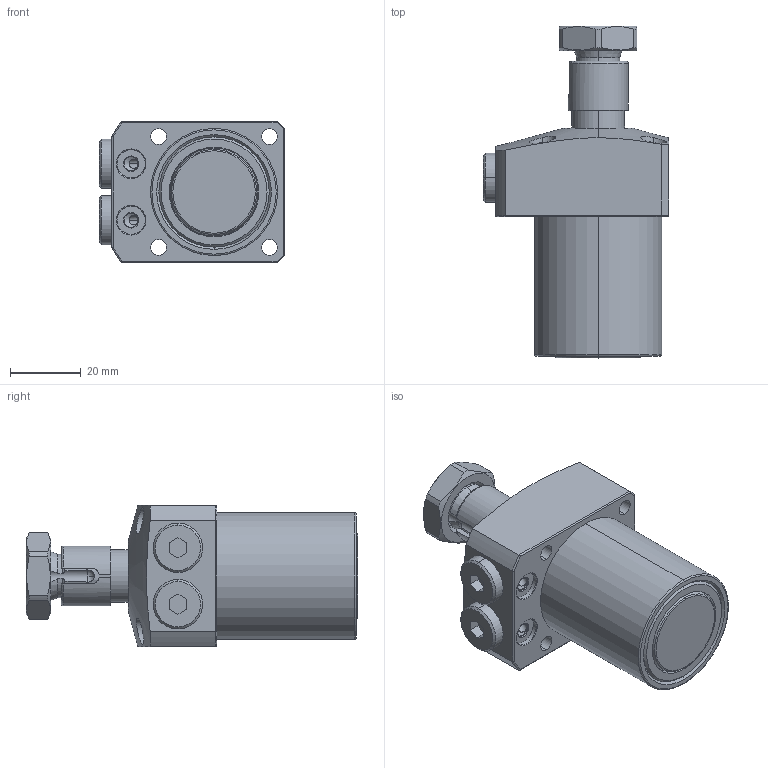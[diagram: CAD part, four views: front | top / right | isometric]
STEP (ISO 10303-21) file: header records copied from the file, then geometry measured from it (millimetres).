
FILE_DESCRIPTION (( 'STEP AP203' ), '1' );
FILE_NAME ('20250-CR.step', '2016-11-02T02:59:55', ( 'wxp' ), ( '' ), 'SwSTEP 2.0', 'SolidWorks 2011', '' );
FILE_SCHEMA (( 'CONFIG_CONTROL_DESIGN' ));
Length unit declared in the file: millimetre
Products named in the file (7): 20250-CR; 20250-C-P-4^20250-CR; 20250-5^20250-CR; 20250-4^20250-CR; 20250-3^20250-CR; 20250-2^20250-CR; 20250-1^20250-CR
Assembly tree (7 placements, depth 2):
  20250-CR
    20250-5^20250-CR
    20250-4^20250-CR
    20250-2^20250-CR
    20250-C-P-4^20250-CR  x2
    20250-1^20250-CR
    20250-3^20250-CR
Bounding box: 52.5 x 94 x 40 mm (x, y, z)
Volume: 91474.6 mm3; surface area: 21867.5 mm2
Topology: 7 solids, 7 shells, 228 faces, 539 edges, 341 vertices
Faces by surface type: cylinder 81, plane 77, cone 51, torus 17, sphere 2
Entity records: 7697 total; most frequent: CARTESIAN_POINT 1927, DIRECTION 1088, ORIENTED_EDGE 1018, EDGE_CURVE 509, AXIS2_PLACEMENT_3D 444, VERTEX_POINT 323, EDGE_LOOP 246, CIRCLE 219
